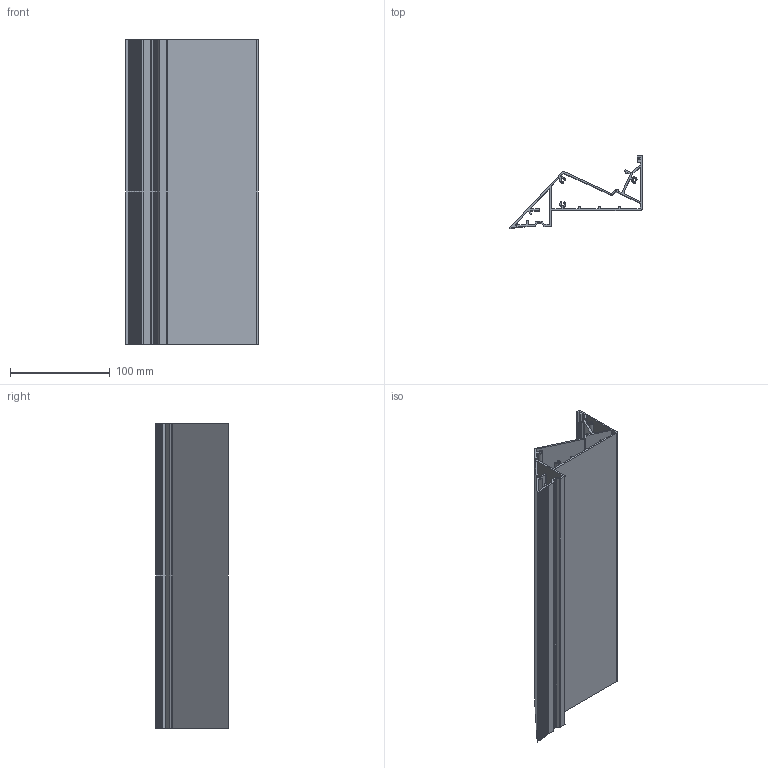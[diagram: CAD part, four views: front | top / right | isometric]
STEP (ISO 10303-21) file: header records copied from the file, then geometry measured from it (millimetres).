
FILE_DESCRIPTION (( 'STEP AP203' ), '1' );
FILE_NAME ('L09 Knife Edge Cove 12in Housing.STEP', '2023-06-28T21:41:19', ( '' ), ( '' ), 'SwSTEP 2.0', 'SolidWorks 2022', '' );
FILE_SCHEMA (( 'CONFIG_CONTROL_DESIGN' ));
Length unit declared in the file: inch
Products named in the file (1): L09 Knife Edge Cove 12in Housing
Bounding box: 132.7 x 72.84 x 304.8 mm (x, y, z)
Volume: 269467 mm3; surface area: 294307.1 mm2
Topology: 1 solids, 1 shells, 239 faces, 711 edges, 474 vertices
Faces by surface type: cylinder 145, plane 94
Entity records: 8226 total; most frequent: DIRECTION 1481, CARTESIAN_POINT 1425, ORIENTED_EDGE 1422, EDGE_CURVE 711, AXIS2_PLACEMENT_3D 530, VERTEX_POINT 474, VECTOR 421, LINE 421
